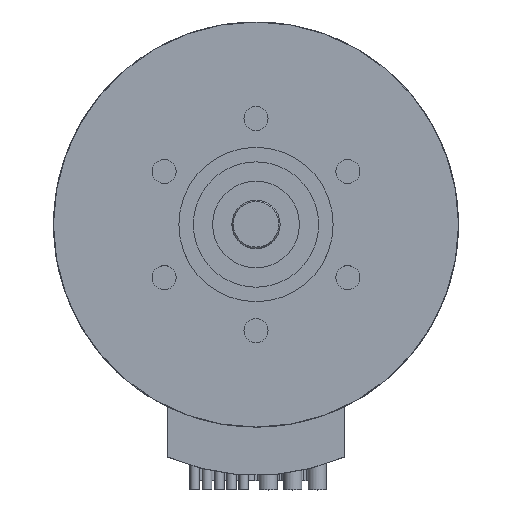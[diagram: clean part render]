
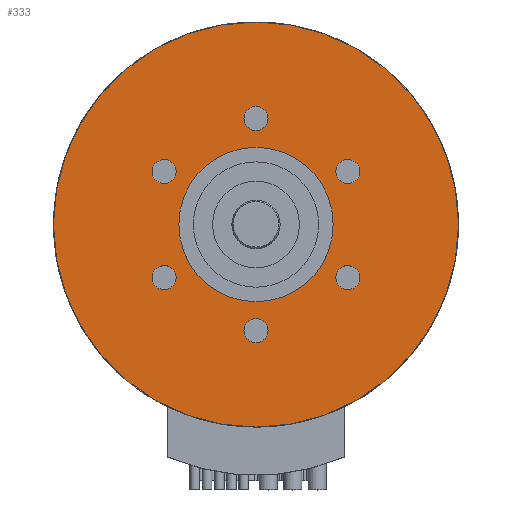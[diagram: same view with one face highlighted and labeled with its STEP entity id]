
A CAD part, top view. The second image highlights one B-rep face of the part: STEP entity #333.
In plain terms, the highlighted planar face has unit normal (0, 0, 1).
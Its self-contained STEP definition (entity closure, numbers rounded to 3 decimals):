
#108=FACE_BOUND('',#572,.T.);
#109=FACE_BOUND('',#573,.T.);
#110=FACE_BOUND('',#574,.T.);
#111=FACE_BOUND('',#575,.T.);
#112=FACE_BOUND('',#576,.T.);
#113=FACE_BOUND('',#577,.T.);
#114=FACE_BOUND('',#578,.T.);
#115=FACE_BOUND('',#579,.T.);
#232=CIRCLE('',#1735,8.);
#233=CIRCLE('',#1737,1.25);
#234=CIRCLE('',#1738,1.25);
#235=CIRCLE('',#1739,1.25);
#236=CIRCLE('',#1740,1.25);
#237=CIRCLE('',#1741,1.25);
#238=CIRCLE('',#1742,1.25);
#239=CIRCLE('',#1743,21.);
#333=ADVANCED_FACE('',(#108,#109,#110,#111,#112,#113,#114,#115),#439,.T.);
#439=PLANE('',#1744);
#572=EDGE_LOOP('',(#857));
#573=EDGE_LOOP('',(#858));
#574=EDGE_LOOP('',(#859));
#575=EDGE_LOOP('',(#860));
#576=EDGE_LOOP('',(#861));
#577=EDGE_LOOP('',(#862));
#578=EDGE_LOOP('',(#863));
#579=EDGE_LOOP('',(#864));
#857=ORIENTED_EDGE('',*,*,#1390,.T.);
#858=ORIENTED_EDGE('',*,*,#1391,.T.);
#859=ORIENTED_EDGE('',*,*,#1392,.T.);
#860=ORIENTED_EDGE('',*,*,#1393,.T.);
#861=ORIENTED_EDGE('',*,*,#1394,.T.);
#862=ORIENTED_EDGE('',*,*,#1395,.T.);
#863=ORIENTED_EDGE('',*,*,#1389,.F.);
#864=ORIENTED_EDGE('',*,*,#1396,.F.);
#1212=VERTEX_POINT('',#2673);
#1213=VERTEX_POINT('',#2676);
#1214=VERTEX_POINT('',#2678);
#1215=VERTEX_POINT('',#2680);
#1216=VERTEX_POINT('',#2682);
#1217=VERTEX_POINT('',#2684);
#1218=VERTEX_POINT('',#2686);
#1219=VERTEX_POINT('',#2688);
#1389=EDGE_CURVE('',#1212,#1212,#232,.T.);
#1390=EDGE_CURVE('',#1213,#1213,#233,.T.);
#1391=EDGE_CURVE('',#1214,#1214,#234,.T.);
#1392=EDGE_CURVE('',#1215,#1215,#235,.T.);
#1393=EDGE_CURVE('',#1216,#1216,#236,.T.);
#1394=EDGE_CURVE('',#1217,#1217,#237,.T.);
#1395=EDGE_CURVE('',#1218,#1218,#238,.T.);
#1396=EDGE_CURVE('',#1219,#1219,#239,.T.);
#1735=AXIS2_PLACEMENT_3D('',#2672,#2103,#2104);
#1737=AXIS2_PLACEMENT_3D('',#2675,#2107,#2108);
#1738=AXIS2_PLACEMENT_3D('',#2677,#2109,#2110);
#1739=AXIS2_PLACEMENT_3D('',#2679,#2111,#2112);
#1740=AXIS2_PLACEMENT_3D('',#2681,#2113,#2114);
#1741=AXIS2_PLACEMENT_3D('',#2683,#2115,#2116);
#1742=AXIS2_PLACEMENT_3D('',#2685,#2117,#2118);
#1743=AXIS2_PLACEMENT_3D('',#2687,#2119,#2120);
#1744=AXIS2_PLACEMENT_3D('',#2689,#2121,#2122);
#2103=DIRECTION('',(0.,0.,1.));
#2104=DIRECTION('',(1.,0.,0.));
#2107=DIRECTION('',(0.,0.,-1.));
#2108=DIRECTION('',(-1.,0.,0.));
#2109=DIRECTION('',(0.,0.,-1.));
#2110=DIRECTION('',(-1.,0.,0.));
#2111=DIRECTION('',(0.,0.,-1.));
#2112=DIRECTION('',(-1.,0.,0.));
#2113=DIRECTION('',(0.,0.,-1.));
#2114=DIRECTION('',(-1.,0.,0.));
#2115=DIRECTION('',(0.,0.,-1.));
#2116=DIRECTION('',(-1.,0.,0.));
#2117=DIRECTION('',(0.,0.,-1.));
#2118=DIRECTION('',(-1.,0.,0.));
#2119=DIRECTION('',(0.,0.,-1.));
#2120=DIRECTION('',(1.,0.,0.));
#2121=DIRECTION('',(0.,0.,1.));
#2122=DIRECTION('',(1.,0.,0.));
#2672=CARTESIAN_POINT('',(0.,0.,0.));
#2673=CARTESIAN_POINT('',(8.,0.,0.));
#2675=CARTESIAN_POINT('',(9.526,5.5,0.));
#2676=CARTESIAN_POINT('',(8.276,5.5,0.));
#2677=CARTESIAN_POINT('',(9.526,-5.5,0.));
#2678=CARTESIAN_POINT('',(8.276,-5.5,0.));
#2679=CARTESIAN_POINT('',(0.,-11.,0.));
#2680=CARTESIAN_POINT('',(-1.25,-11.,0.));
#2681=CARTESIAN_POINT('',(-9.526,-5.5,0.));
#2682=CARTESIAN_POINT('',(-10.776,-5.5,0.));
#2683=CARTESIAN_POINT('',(-9.526,5.5,0.));
#2684=CARTESIAN_POINT('',(-10.776,5.5,0.));
#2685=CARTESIAN_POINT('',(0.,11.,0.));
#2686=CARTESIAN_POINT('',(-1.25,11.,0.));
#2687=CARTESIAN_POINT('',(0.,0.,0.));
#2688=CARTESIAN_POINT('',(21.,0.,0.));
#2689=CARTESIAN_POINT('',(0.,0.,0.));
